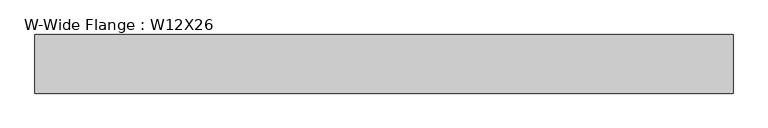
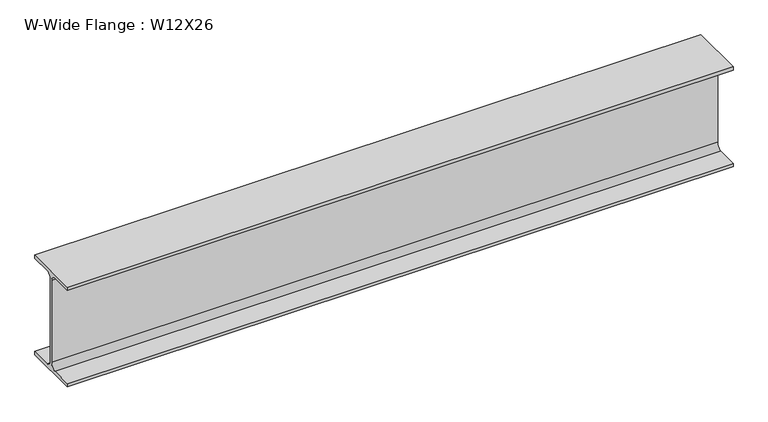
"""IFC4 building model written with IfcOpenShell, lengths in millimetres: beam geometry, W-Wide Flange : W12X26."""

from ifc_helpers import new_model, si_unit, point, frame, frame_2d, origin, place, context, project, spatial, polyline, circle_curve, trimmed, segment, composite_curve, outline, extrude, source, transform, mapped, element, save


def w_wide_flange_w12x26_057477a8(model_context):
    return source(origin(), model_context, "Body", "SweptSolid", [
        extrude(outline(composite_curve([segment(polyline([(-82.4011719, -145.5539063), (-20.2902344, -145.5539063)]), True, "CONTINUOUS"), segment(trimmed(circle_curve(frame_2d((-20.2902344, -128.190625)), 17.3632812), [point((-20.2902344, -145.5539063))], [point((-2.9269531, -128.190625))], True, "CARTESIAN"), True, "CONTINUOUS"), segment(polyline([(-2.9269531, -128.190625), (-2.9269531, 128.190625)]), True, "CONTINUOUS"), segment(trimmed(circle_curve(frame_2d((-20.2902344, 128.190625)), 17.3632812), [point((-2.9269531, 128.190625))], [point((-20.2902344, 145.5539062))], True, "CARTESIAN"), True, "CONTINUOUS"), segment(polyline([(-20.2902344, 145.5539062), (-82.4011719, 145.5539062), (-82.4011719, 155.178125), (82.4011719, 155.178125), (82.4011719, 145.5539062), (20.2902344, 145.5539062)]), True, "CONTINUOUS"), segment(trimmed(circle_curve(frame_2d((20.2902344, 128.190625)), 17.3632812), [point((20.2902344, 145.5539062))], [point((2.9269531, 128.190625))], True, "CARTESIAN"), True, "CONTINUOUS"), segment(polyline([(2.9269531, 128.190625), (2.9269531, -128.190625)]), True, "CONTINUOUS"), segment(trimmed(circle_curve(frame_2d((20.2902344, -128.190625)), 17.3632812), [point((2.9269531, -128.190625))], [point((20.2902344, -145.5539063))], True, "CARTESIAN"), True, "CONTINUOUS"), segment(polyline([(20.2902344, -145.5539063), (82.4011719, -145.5539063), (82.4011719, -155.178125), (-82.4011719, -155.178125), (-82.4011719, -145.5539063)]), True, "CONTINUOUS")], self_intersect=False)), frame((-984.25, 0.0, 0.0), z_axis=(1.0, 0.0, 0.0), x_axis=(0.0, 1.0, 0.0)), (0.0, 0.0, 1.0), 1962.15),
    ])


if __name__ == "__main__":
    model = new_model("IFC4")
    model_context = context("Model", 3, world=origin())
    ifc_project = project(units=[si_unit("LENGTHUNIT", "METRE", prefix="MILLI")], contexts=[model_context])
    site = spatial("IfcSite", under=ifc_project)
    building = spatial("IfcBuilding", under=site)
    placement = place(None, origin())
    w_wide_flange_w12x26_shape = w_wide_flange_w12x26_057477a8(model_context)
    element("IfcBeam", 1, ObjectType="W-Wide Flange : W12X26", at=placement, inside=building, context=model_context, shape_type="MappedRepresentation", body=[
        mapped(w_wide_flange_w12x26_shape, transform((0.0, 0.0, 0.0), x_axis=(1.0, 0.0, 0.0), y_axis=(0.0, 1.0, 0.0), z_axis=(0.0, 0.0, 1.0))),
    ])
    save(model, "model.ifc")
